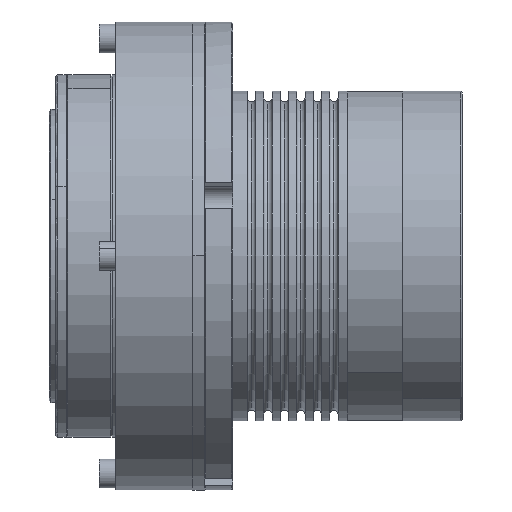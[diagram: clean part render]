
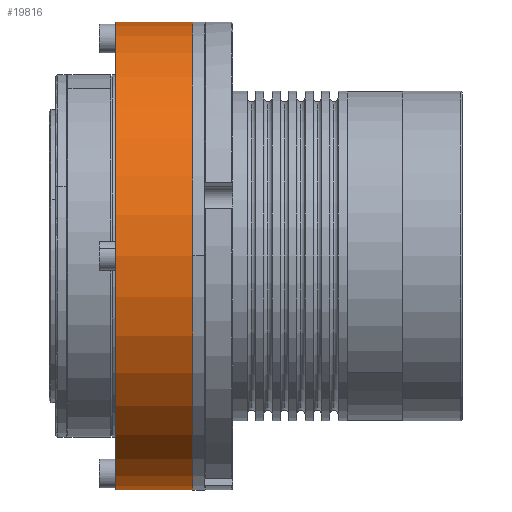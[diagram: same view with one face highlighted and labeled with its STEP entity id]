
A CAD part, left-side view. The second image highlights one B-rep face of the part: STEP entity #19816.
In plain terms, the highlighted cylindrical face has radius 71 mm (diameter 142 mm), a partial arc.
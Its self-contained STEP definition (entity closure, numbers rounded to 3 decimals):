
#647 = EDGE_CURVE ( 'NONE', #4506, #18450, #22525, .T. ) ;
#3582 = ORIENTED_EDGE ( 'NONE', *, *, #13462, .T. ) ;
#3698 = VECTOR ( 'NONE', #17978, 1000. ) ;
#3918 = LINE ( 'NONE', #4354, #12852 ) ;
#4354 = CARTESIAN_POINT ( 'NONE',  ( 0., 23.4, -71. ) ) ;
#4404 = DIRECTION ( 'NONE',  ( 0., 0., -1. ) ) ;
#4506 = VERTEX_POINT ( 'NONE', #26311 ) ;
#9342 = CARTESIAN_POINT ( 'NONE',  ( 0., 23.4, 0. ) ) ;
#9609 = AXIS2_PLACEMENT_3D ( 'NONE', #16772, #15590, #4404 ) ;
#9894 = CARTESIAN_POINT ( 'NONE',  ( 0., 23.4, 71. ) ) ;
#10078 = FACE_OUTER_BOUND ( 'NONE', #17587, .T. ) ;
#12241 = CIRCLE ( 'NONE', #27087, 71. ) ;
#12742 = ORIENTED_EDGE ( 'NONE', *, *, #16701, .T. ) ;
#12852 = VECTOR ( 'NONE', #23962, 1000. ) ;
#13313 = CARTESIAN_POINT ( 'NONE',  ( 0., 0., 71. ) ) ;
#13462 = EDGE_CURVE ( 'NONE', #4506, #23472, #3918, .T. ) ;
#15105 = AXIS2_PLACEMENT_3D ( 'NONE', #9342, #27358, #24893 ) ;
#15590 = DIRECTION ( 'NONE',  ( 0., -1., 0. ) ) ;
#16701 = EDGE_CURVE ( 'NONE', #23472, #23896, #12241, .T. ) ;
#16772 = CARTESIAN_POINT ( 'NONE',  ( 0., 23.4, 0. ) ) ;
#17019 = DIRECTION ( 'NONE',  ( 0., 1., 0. ) ) ;
#17162 = CARTESIAN_POINT ( 'NONE',  ( 0., 0., 0. ) ) ;
#17587 = EDGE_LOOP ( 'NONE', ( #25321, #22108, #3582, #12742 ) ) ;
#17978 = DIRECTION ( 'NONE',  ( 0., -1., 0. ) ) ;
#18450 = VERTEX_POINT ( 'NONE', #9894 ) ;
#18947 = CYLINDRICAL_SURFACE ( 'NONE', #9609, 71. ) ;
#19816 = ADVANCED_FACE ( 'NONE', ( #10078 ), #18947, .T. ) ;
#22108 = ORIENTED_EDGE ( 'NONE', *, *, #647, .F. ) ;
#22333 = LINE ( 'NONE', #24224, #3698 ) ;
#22525 = CIRCLE ( 'NONE', #15105, 71. ) ;
#23472 = VERTEX_POINT ( 'NONE', #28472 ) ;
#23824 = DIRECTION ( 'NONE',  ( 0., 0., 1. ) ) ;
#23896 = VERTEX_POINT ( 'NONE', #13313 ) ;
#23962 = DIRECTION ( 'NONE',  ( 0., -1., 0. ) ) ;
#24224 = CARTESIAN_POINT ( 'NONE',  ( 0., 23.4, 71. ) ) ;
#24893 = DIRECTION ( 'NONE',  ( 0., 0., 1. ) ) ;
#25321 = ORIENTED_EDGE ( 'NONE', *, *, #26286, .F. ) ;
#26286 = EDGE_CURVE ( 'NONE', #18450, #23896, #22333, .T. ) ;
#26311 = CARTESIAN_POINT ( 'NONE',  ( 0., 23.4, -71. ) ) ;
#27087 = AXIS2_PLACEMENT_3D ( 'NONE', #17162, #17019, #23824 ) ;
#27358 = DIRECTION ( 'NONE',  ( 0., 1., 0. ) ) ;
#28472 = CARTESIAN_POINT ( 'NONE',  ( 0., 0., -71. ) ) ;
